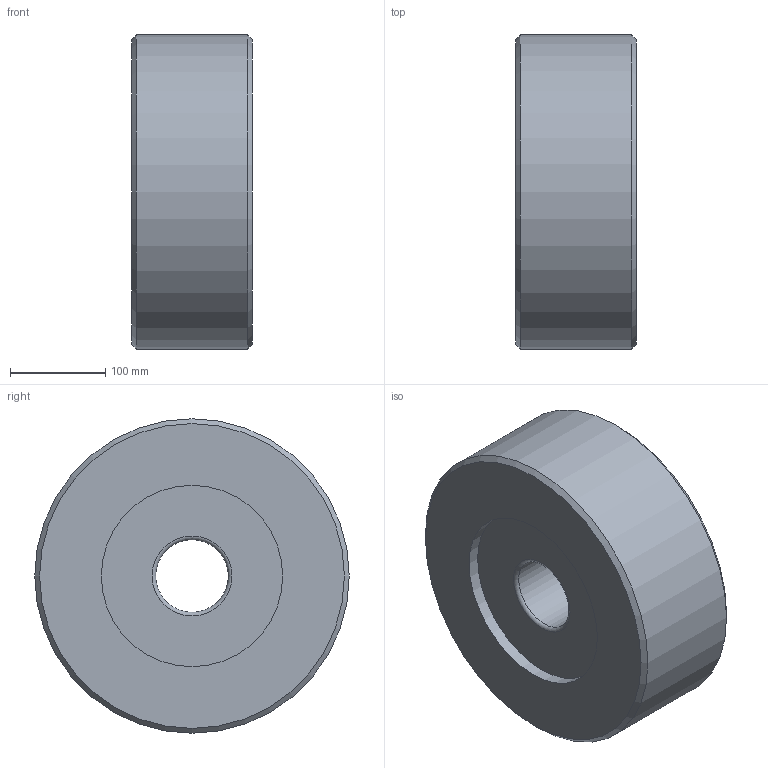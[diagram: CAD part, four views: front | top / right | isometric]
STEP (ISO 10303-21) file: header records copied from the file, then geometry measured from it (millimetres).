
FILE_DESCRIPTION((''),'1');
FILE_NAME('H:/図庫/国内ﾕﾆｯﾄ/ｶﾀﾛｸﾞ/樹脂巻き/ホームページ用ＣＡＤ図面/update用/3D/', '2017-07-13T02:44:13',(''), (''), 'KCM Version 1.1.1442.0', 'Kubotek KeyCreator', '');
FILE_SCHEMA(('AUTOMOTIVE_DESIGN'));
Length unit declared in the file: inch
Bounding box: 127 x 330.2 x 330.2 mm (x, y, z)
Surface area: 326402.4 mm2 (no closed solid volume)
Topology: 0 solids, 12 shells, 12 faces, 40 edges, 32 vertices
Faces by surface type: cylinder 4, plane 4, cone 2, torus 2
Full cylindrical faces by diameter (mm): 76.2 x1, 190.5 x2, 330.2 x1
Entity records: 476 total; most frequent: DIRECTION 92, CARTESIAN_POINT 81, ORIENTED_EDGE 48, AXIS2_PLACEMENT_3D 43, EDGE_CURVE 40, VERTEX_POINT 32, CIRCLE 30, EDGE_LOOP 16
